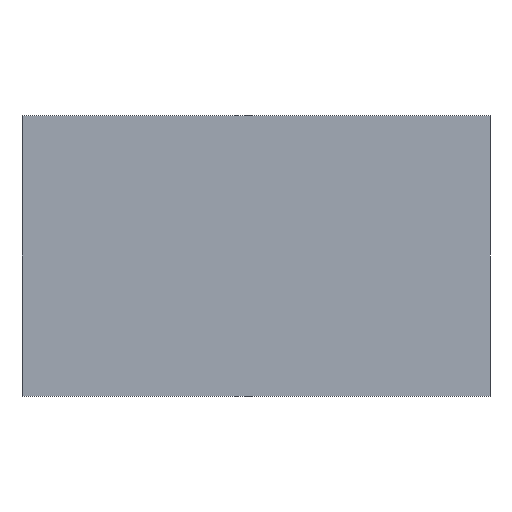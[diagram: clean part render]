
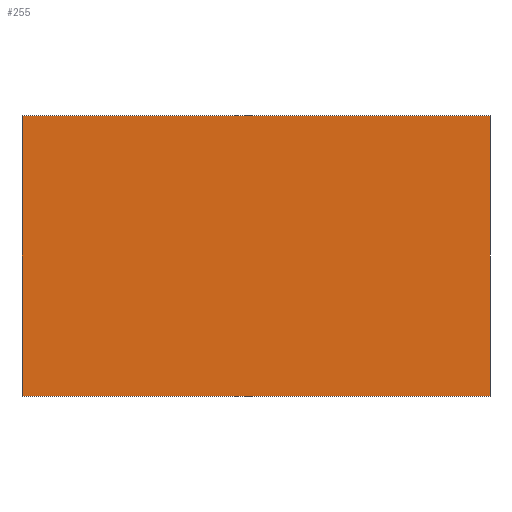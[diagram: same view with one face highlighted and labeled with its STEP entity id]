
A CAD part, front view. The second image highlights one B-rep face of the part: STEP entity #255.
In plain terms, the highlighted planar face has unit normal (0, -1, 0).
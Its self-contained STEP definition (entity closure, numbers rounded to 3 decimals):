
#39 = EDGE_CURVE('',#40,#42,#44,.T.);
#40 = VERTEX_POINT('',#41);
#41 = CARTESIAN_POINT('',(0.,0.,0.));
#42 = VERTEX_POINT('',#43);
#43 = CARTESIAN_POINT('',(0.,0.,3.6));
#44 = SURFACE_CURVE('',#45,(#49,#61),.PCURVE_S1.);
#45 = LINE('',#46,#47);
#46 = CARTESIAN_POINT('',(0.,0.,0.));
#47 = VECTOR('',#48,1.);
#48 = DIRECTION('',(0.,0.,1.));
#49 = PCURVE('',#50,#55);
#50 = PLANE('',#51);
#51 = AXIS2_PLACEMENT_3D('',#52,#53,#54);
#52 = CARTESIAN_POINT('',(0.,0.,0.));
#53 = DIRECTION('',(1.,0.,-0.));
#54 = DIRECTION('',(0.,0.,1.));
#55 = DEFINITIONAL_REPRESENTATION('',(#56),#60);
#56 = LINE('',#57,#58);
#57 = CARTESIAN_POINT('',(0.,0.));
#58 = VECTOR('',#59,1.);
#59 = DIRECTION('',(1.,0.));
#60 = ( GEOMETRIC_REPRESENTATION_CONTEXT(2) 
PARAMETRIC_REPRESENTATION_CONTEXT() REPRESENTATION_CONTEXT('2D SPACE',''
  ) );
#61 = PCURVE('',#62,#67);
#62 = PLANE('',#63);
#63 = AXIS2_PLACEMENT_3D('',#64,#65,#66);
#64 = CARTESIAN_POINT('',(0.,0.,0.));
#65 = DIRECTION('',(-0.,1.,0.));
#66 = DIRECTION('',(0.,0.,1.));
#67 = DEFINITIONAL_REPRESENTATION('',(#68),#72);
#68 = LINE('',#69,#70);
#69 = CARTESIAN_POINT('',(0.,0.));
#70 = VECTOR('',#71,1.);
#71 = DIRECTION('',(1.,0.));
#72 = ( GEOMETRIC_REPRESENTATION_CONTEXT(2) 
PARAMETRIC_REPRESENTATION_CONTEXT() REPRESENTATION_CONTEXT('2D SPACE',''
  ) );
#90 = PLANE('',#91);
#91 = AXIS2_PLACEMENT_3D('',#92,#93,#94);
#92 = CARTESIAN_POINT('',(0.,0.,0.));
#93 = DIRECTION('',(0.,0.,1.));
#94 = DIRECTION('',(1.,0.,-0.));
#144 = PLANE('',#145);
#145 = AXIS2_PLACEMENT_3D('',#146,#147,#148);
#146 = CARTESIAN_POINT('',(0.,0.,3.6));
#147 = DIRECTION('',(0.,0.,1.));
#148 = DIRECTION('',(1.,0.,-0.));
#159 = EDGE_CURVE('',#160,#162,#164,.T.);
#160 = VERTEX_POINT('',#161);
#161 = CARTESIAN_POINT('',(6.,0.,0.));
#162 = VERTEX_POINT('',#163);
#163 = CARTESIAN_POINT('',(6.,0.,3.6));
#164 = SURFACE_CURVE('',#165,(#169,#181),.PCURVE_S1.);
#165 = LINE('',#166,#167);
#166 = CARTESIAN_POINT('',(6.,0.,0.));
#167 = VECTOR('',#168,1.);
#168 = DIRECTION('',(0.,0.,1.));
#169 = PCURVE('',#170,#175);
#170 = PLANE('',#171);
#171 = AXIS2_PLACEMENT_3D('',#172,#173,#174);
#172 = CARTESIAN_POINT('',(6.,0.,0.));
#173 = DIRECTION('',(1.,0.,-0.));
#174 = DIRECTION('',(0.,0.,1.));
#175 = DEFINITIONAL_REPRESENTATION('',(#176),#180);
#176 = LINE('',#177,#178);
#177 = CARTESIAN_POINT('',(0.,0.));
#178 = VECTOR('',#179,1.);
#179 = DIRECTION('',(1.,0.));
#180 = ( GEOMETRIC_REPRESENTATION_CONTEXT(2) 
PARAMETRIC_REPRESENTATION_CONTEXT() REPRESENTATION_CONTEXT('2D SPACE',''
  ) );
#181 = PCURVE('',#62,#182);
#182 = DEFINITIONAL_REPRESENTATION('',(#183),#187);
#183 = LINE('',#184,#185);
#184 = CARTESIAN_POINT('',(0.,6.));
#185 = VECTOR('',#186,1.);
#186 = DIRECTION('',(1.,0.));
#187 = ( GEOMETRIC_REPRESENTATION_CONTEXT(2) 
PARAMETRIC_REPRESENTATION_CONTEXT() REPRESENTATION_CONTEXT('2D SPACE',''
  ) );
#255 = ADVANCED_FACE('',(#256),#62,.F.);
#256 = FACE_BOUND('',#257,.F.);
#257 = EDGE_LOOP('',(#258,#279,#280,#301));
#258 = ORIENTED_EDGE('',*,*,#259,.F.);
#259 = EDGE_CURVE('',#40,#160,#260,.T.);
#260 = SURFACE_CURVE('',#261,(#265,#272),.PCURVE_S1.);
#261 = LINE('',#262,#263);
#262 = CARTESIAN_POINT('',(0.,0.,0.));
#263 = VECTOR('',#264,1.);
#264 = DIRECTION('',(1.,0.,-0.));
#265 = PCURVE('',#62,#266);
#266 = DEFINITIONAL_REPRESENTATION('',(#267),#271);
#267 = LINE('',#268,#269);
#268 = CARTESIAN_POINT('',(0.,0.));
#269 = VECTOR('',#270,1.);
#270 = DIRECTION('',(0.,1.));
#271 = ( GEOMETRIC_REPRESENTATION_CONTEXT(2) 
PARAMETRIC_REPRESENTATION_CONTEXT() REPRESENTATION_CONTEXT('2D SPACE',''
  ) );
#272 = PCURVE('',#90,#273);
#273 = DEFINITIONAL_REPRESENTATION('',(#274),#278);
#274 = LINE('',#275,#276);
#275 = CARTESIAN_POINT('',(0.,0.));
#276 = VECTOR('',#277,1.);
#277 = DIRECTION('',(1.,0.));
#278 = ( GEOMETRIC_REPRESENTATION_CONTEXT(2) 
PARAMETRIC_REPRESENTATION_CONTEXT() REPRESENTATION_CONTEXT('2D SPACE',''
  ) );
#279 = ORIENTED_EDGE('',*,*,#39,.T.);
#280 = ORIENTED_EDGE('',*,*,#281,.T.);
#281 = EDGE_CURVE('',#42,#162,#282,.T.);
#282 = SURFACE_CURVE('',#283,(#287,#294),.PCURVE_S1.);
#283 = LINE('',#284,#285);
#284 = CARTESIAN_POINT('',(0.,0.,3.6));
#285 = VECTOR('',#286,1.);
#286 = DIRECTION('',(1.,0.,-0.));
#287 = PCURVE('',#62,#288);
#288 = DEFINITIONAL_REPRESENTATION('',(#289),#293);
#289 = LINE('',#290,#291);
#290 = CARTESIAN_POINT('',(3.6,0.));
#291 = VECTOR('',#292,1.);
#292 = DIRECTION('',(0.,1.));
#293 = ( GEOMETRIC_REPRESENTATION_CONTEXT(2) 
PARAMETRIC_REPRESENTATION_CONTEXT() REPRESENTATION_CONTEXT('2D SPACE',''
  ) );
#294 = PCURVE('',#144,#295);
#295 = DEFINITIONAL_REPRESENTATION('',(#296),#300);
#296 = LINE('',#297,#298);
#297 = CARTESIAN_POINT('',(0.,0.));
#298 = VECTOR('',#299,1.);
#299 = DIRECTION('',(1.,0.));
#300 = ( GEOMETRIC_REPRESENTATION_CONTEXT(2) 
PARAMETRIC_REPRESENTATION_CONTEXT() REPRESENTATION_CONTEXT('2D SPACE',''
  ) );
#301 = ORIENTED_EDGE('',*,*,#159,.F.);
